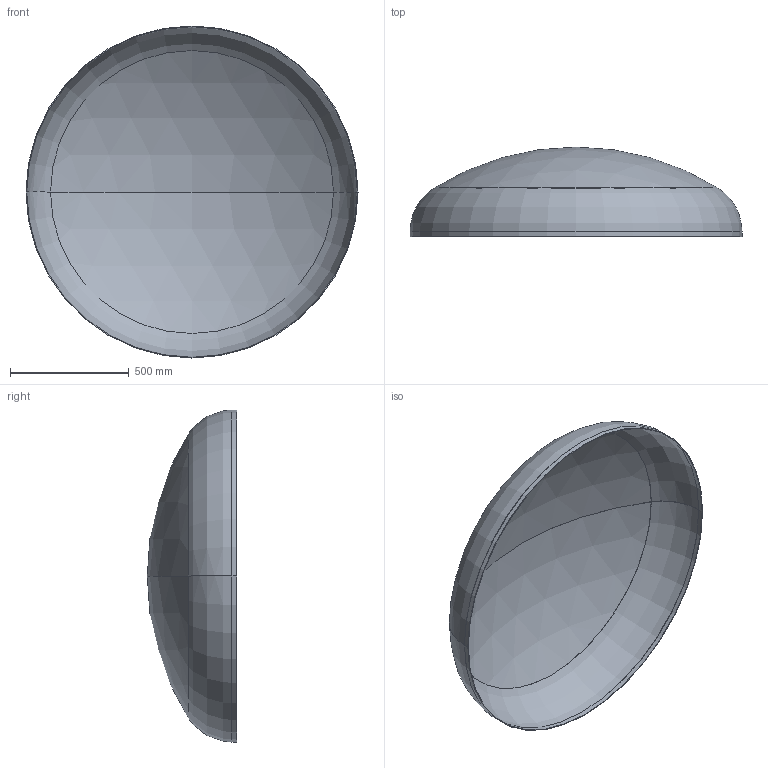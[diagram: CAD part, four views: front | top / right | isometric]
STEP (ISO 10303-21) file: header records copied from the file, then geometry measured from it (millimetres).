
FILE_DESCRIPTION (( 'STEP AP203' ), '1' );
FILE_NAME ('DIN 28013 Korbbogenform_-_Boden DIN 28013 - 1400 x 20 - I - s=3.step', '2016-07-01T10:05:12', ( '' ), ( '' ), 'SwSTEP 2.0', 'SolidWorks 2013', '' );
FILE_SCHEMA (( 'CONFIG_CONTROL_DESIGN' ));
Length unit declared in the file: millimetre
Products named in the file (1): DIN 28013 Korbbogenform_-_Boden DIN 28013 - 1400 x 20 - I - s=3
Bounding box: 1400 x 377.04 x 1400 mm (x, y, z)
Volume: 6638411.4 mm3; surface area: 4438791.1 mm2
Topology: 1 solids, 1 shells, 13 faces, 24 edges, 14 vertices
Faces by surface type: torus 4, cylinder 4, sphere 4, plane 1
Entity records: 407 total; most frequent: DIRECTION 72, CARTESIAN_POINT 52, ORIENTED_EDGE 48, AXIS2_PLACEMENT_3D 34, EDGE_CURVE 24, CIRCLE 20, EDGE_LOOP 14, VERTEX_POINT 14
